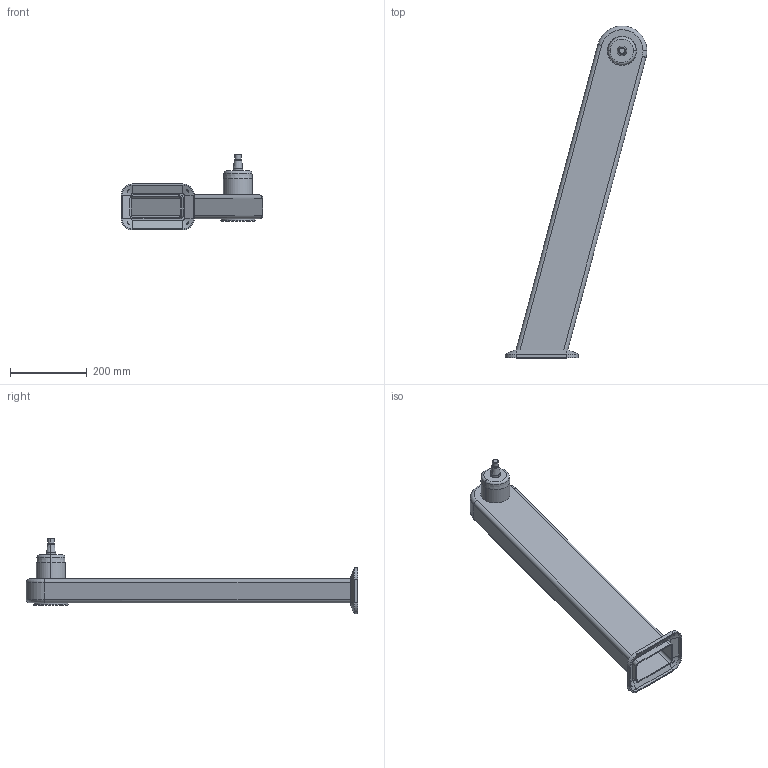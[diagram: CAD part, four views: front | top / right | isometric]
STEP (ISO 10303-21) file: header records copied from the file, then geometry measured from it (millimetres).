
FILE_DESCRIPTION (( 'STEP AP214' ), '1' );
FILE_NAME ('WP710_H800_+15.STEP', '2014-06-27T07:56:08', ( '' ), ( '' ), 'SwSTEP 2.0', 'SolidWorks 2014', '' );
FILE_SCHEMA (( 'AUTOMOTIVE_DESIGN' ));
Length unit declared in the file: millimetre
Products named in the file (1): WP710_H800_+15
Bounding box: 369.5 x 864.93 x 198 mm (x, y, z)
Volume: 1373691.8 mm3; surface area: 700955.5 mm2
Topology: 1 solids, 1 shells, 114 faces, 256 edges, 156 vertices
Faces by surface type: cylinder 42, plane 40, cone 20, torus 12
Entity records: 3285 total; most frequent: CARTESIAN_POINT 680, DIRECTION 570, ORIENTED_EDGE 512, EDGE_CURVE 256, AXIS2_PLACEMENT_3D 221, VERTEX_POINT 156, EDGE_LOOP 128, LINE 128
